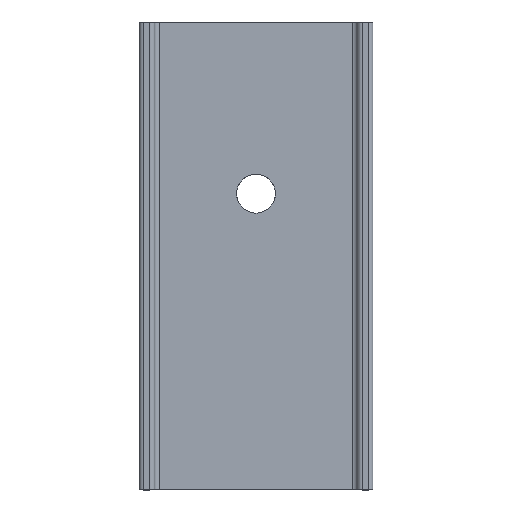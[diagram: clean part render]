
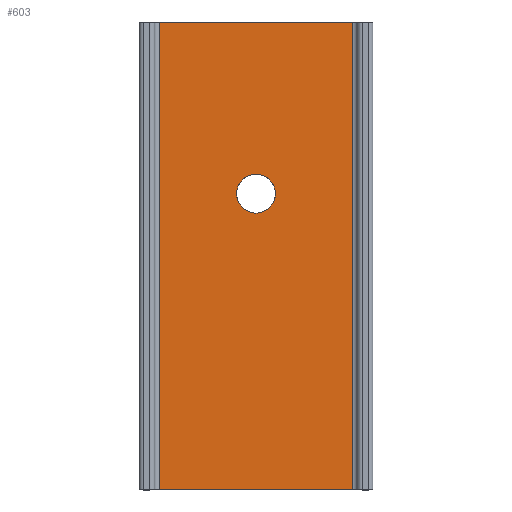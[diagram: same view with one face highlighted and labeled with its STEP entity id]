
A CAD part, top view. The second image highlights one B-rep face of the part: STEP entity #603.
In plain terms, the highlighted planar face has unit normal (0, 0, 1).
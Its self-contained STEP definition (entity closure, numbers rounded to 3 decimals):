
#12 = DIRECTION ( 'NONE',  ( 0., -1., 0. ) ) ;
#180 = AXIS2_PLACEMENT_3D ( 'NONE', #814, #1907, #445 ) ;
#218 = CIRCLE ( 'NONE', #180, 1.25 ) ;
#227 = ORIENTED_EDGE ( 'NONE', *, *, #2093, .T. ) ;
#283 = LINE ( 'NONE', #2188, #711 ) ;
#330 = CARTESIAN_POINT ( 'NONE',  ( 6.2, 30., 0. ) ) ;
#359 = DIRECTION ( 'NONE',  ( 1., 0., 0. ) ) ;
#445 = DIRECTION ( 'NONE',  ( 1., 0., 0. ) ) ;
#476 = CARTESIAN_POINT ( 'NONE',  ( 1.25, 19., 0. ) ) ;
#492 = ORIENTED_EDGE ( 'NONE', *, *, #1327, .T. ) ;
#603 = ADVANCED_FACE ( 'NONE', ( #2281, #2172 ), #2118, .F. ) ;
#627 = DIRECTION ( 'NONE',  ( 0., 0., -1. ) ) ;
#629 = EDGE_CURVE ( 'NONE', #1540, #1007, #1739, .T. ) ;
#711 = VECTOR ( 'NONE', #12, 1000. ) ;
#716 = CARTESIAN_POINT ( 'NONE',  ( 0., 19., 0. ) ) ;
#747 = VECTOR ( 'NONE', #1040, 1000. ) ;
#796 = VERTEX_POINT ( 'NONE', #2154 ) ;
#799 = EDGE_CURVE ( 'NONE', #1007, #1540, #218, .T. ) ;
#814 = CARTESIAN_POINT ( 'NONE',  ( 0., 19., 0. ) ) ;
#834 = CARTESIAN_POINT ( 'NONE',  ( 6.2, 30., 0. ) ) ;
#854 = CARTESIAN_POINT ( 'NONE',  ( 6.2, 0., 0. ) ) ;
#904 = DIRECTION ( 'NONE',  ( 1., 0., 0. ) ) ;
#917 = ORIENTED_EDGE ( 'NONE', *, *, #1722, .F. ) ;
#1007 = VERTEX_POINT ( 'NONE', #1323 ) ;
#1025 = ORIENTED_EDGE ( 'NONE', *, *, #799, .F. ) ;
#1040 = DIRECTION ( 'NONE',  ( 1., 0., 0. ) ) ;
#1073 = AXIS2_PLACEMENT_3D ( 'NONE', #716, #1985, #904 ) ;
#1146 = VERTEX_POINT ( 'NONE', #854 ) ;
#1193 = AXIS2_PLACEMENT_3D ( 'NONE', #834, #627, #1210 ) ;
#1210 = DIRECTION ( 'NONE',  ( -1., 0., 0. ) ) ;
#1319 = LINE ( 'NONE', #2099, #2230 ) ;
#1323 = CARTESIAN_POINT ( 'NONE',  ( -1.25, 19., 0. ) ) ;
#1327 = EDGE_CURVE ( 'NONE', #796, #1146, #2035, .T. ) ;
#1464 = CARTESIAN_POINT ( 'NONE',  ( 6.2, 0., 0. ) ) ;
#1540 = VERTEX_POINT ( 'NONE', #476 ) ;
#1558 = DIRECTION ( 'NONE',  ( 0., -1., 0. ) ) ;
#1703 = VERTEX_POINT ( 'NONE', #330 ) ;
#1722 = EDGE_CURVE ( 'NONE', #2126, #1703, #2199, .T. ) ;
#1739 = CIRCLE ( 'NONE', #1073, 1.25 ) ;
#1766 = ORIENTED_EDGE ( 'NONE', *, *, #629, .F. ) ;
#1907 = DIRECTION ( 'NONE',  ( 0., 0., 1. ) ) ;
#1921 = CARTESIAN_POINT ( 'NONE',  ( -6.2, 30., 0. ) ) ;
#1942 = EDGE_CURVE ( 'NONE', #1703, #1146, #283, .T. ) ;
#1967 = VECTOR ( 'NONE', #359, 1000. ) ;
#1985 = DIRECTION ( 'NONE',  ( 0., 0., 1. ) ) ;
#2027 = EDGE_LOOP ( 'NONE', ( #492, #2029, #917, #227 ) ) ;
#2029 = ORIENTED_EDGE ( 'NONE', *, *, #1942, .F. ) ;
#2035 = LINE ( 'NONE', #1464, #1967 ) ;
#2093 = EDGE_CURVE ( 'NONE', #2126, #796, #1319, .T. ) ;
#2099 = CARTESIAN_POINT ( 'NONE',  ( -6.2, 30., 0. ) ) ;
#2109 = EDGE_LOOP ( 'NONE', ( #1766, #1025 ) ) ;
#2118 = PLANE ( 'NONE',  #1193 ) ;
#2126 = VERTEX_POINT ( 'NONE', #1921 ) ;
#2154 = CARTESIAN_POINT ( 'NONE',  ( -6.2, 0., 0. ) ) ;
#2172 = FACE_OUTER_BOUND ( 'NONE', #2027, .T. ) ;
#2188 = CARTESIAN_POINT ( 'NONE',  ( 6.2, 30., 0. ) ) ;
#2199 = LINE ( 'NONE', #2306, #747 ) ;
#2230 = VECTOR ( 'NONE', #1558, 1000. ) ;
#2281 = FACE_BOUND ( 'NONE', #2109, .T. ) ;
#2306 = CARTESIAN_POINT ( 'NONE',  ( 6.2, 30., 0. ) ) ;
